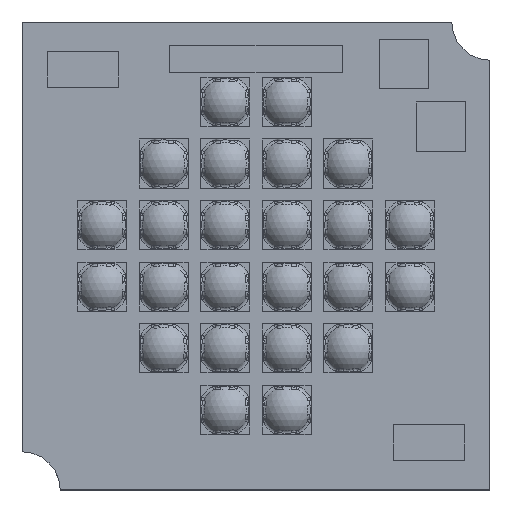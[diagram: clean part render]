
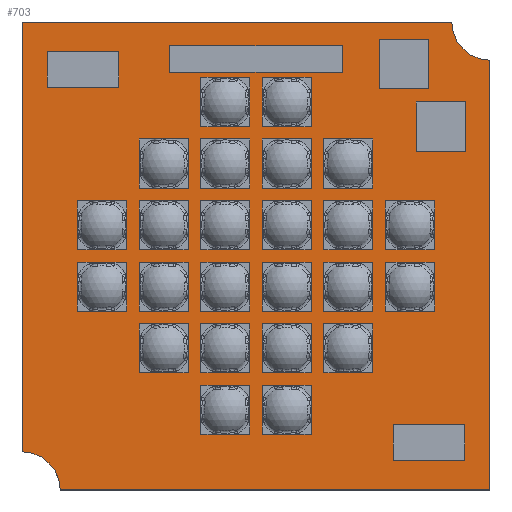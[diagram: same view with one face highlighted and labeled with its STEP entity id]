
A CAD part, top view. The second image highlights one B-rep face of the part: STEP entity #703.
In plain terms, the highlighted planar face has unit normal (0, 0, 1).
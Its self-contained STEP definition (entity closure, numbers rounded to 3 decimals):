
#240=DIRECTION('',(0.991,-0.131,0.));
#241=VECTOR('',#240,0.405);
#242=CARTESIAN_POINT('',(-9.5,-7.95,1.6));
#243=LINE('',#242,#241);
#247=DIRECTION('',(0.,-1.,0.));
#248=VECTOR('',#247,17.45);
#249=CARTESIAN_POINT('',(-9.5,9.5,1.6));
#250=LINE('',#249,#248);
#254=DIRECTION('',(-1.,0.,0.));
#255=VECTOR('',#254,17.45);
#256=CARTESIAN_POINT('',(7.95,9.5,1.6));
#257=LINE('',#256,#255);
#261=DIRECTION('',(-0.131,0.991,0.));
#262=VECTOR('',#261,0.405);
#263=CARTESIAN_POINT('',(8.003,9.099,1.6));
#264=LINE('',#263,#262);
#268=DIRECTION('',(-0.383,0.924,0.));
#269=VECTOR('',#268,0.405);
#270=CARTESIAN_POINT('',(8.158,8.725,1.6));
#271=LINE('',#270,#269);
#275=DIRECTION('',(-0.609,0.793,0.));
#276=VECTOR('',#275,0.405);
#277=CARTESIAN_POINT('',(8.404,8.404,1.6));
#278=LINE('',#277,#276);
#282=DIRECTION('',(-0.793,0.609,0.));
#283=VECTOR('',#282,0.405);
#284=CARTESIAN_POINT('',(8.725,8.158,1.6));
#285=LINE('',#284,#283);
#289=DIRECTION('',(-0.924,0.383,0.));
#290=VECTOR('',#289,0.405);
#291=CARTESIAN_POINT('',(9.099,8.003,1.6));
#292=LINE('',#291,#290);
#296=DIRECTION('',(-0.991,0.131,0.));
#297=VECTOR('',#296,0.405);
#298=CARTESIAN_POINT('',(9.5,7.95,1.6));
#299=LINE('',#298,#297);
#303=DIRECTION('',(0.,1.,0.));
#304=VECTOR('',#303,17.45);
#305=CARTESIAN_POINT('',(9.5,-9.5,1.6));
#306=LINE('',#305,#304);
#310=DIRECTION('',(1.,0.,0.));
#311=VECTOR('',#310,17.45);
#312=CARTESIAN_POINT('',(-7.95,-9.5,1.6));
#313=LINE('',#312,#311);
#317=DIRECTION('',(0.131,-0.991,0.));
#318=VECTOR('',#317,0.405);
#319=CARTESIAN_POINT('',(-8.003,-9.099,1.6));
#320=LINE('',#319,#318);
#324=DIRECTION('',(0.383,-0.924,0.));
#325=VECTOR('',#324,0.405);
#326=CARTESIAN_POINT('',(-8.158,-8.725,1.6));
#327=LINE('',#326,#325);
#331=DIRECTION('',(0.609,-0.793,0.));
#332=VECTOR('',#331,0.405);
#333=CARTESIAN_POINT('',(-8.404,-8.404,1.6));
#334=LINE('',#333,#332);
#338=DIRECTION('',(0.793,-0.609,0.));
#339=VECTOR('',#338,0.405);
#340=CARTESIAN_POINT('',(-8.725,-8.158,1.6));
#341=LINE('',#340,#339);
#345=DIRECTION('',(0.924,-0.383,0.));
#346=VECTOR('',#345,0.405);
#347=CARTESIAN_POINT('',(-9.099,-8.003,1.6));
#348=LINE('',#347,#346);
#384=CARTESIAN_POINT('',(-9.5,-7.95,1.6));
#385=CARTESIAN_POINT('',(-9.099,-8.003,1.6));
#386=VERTEX_POINT('',#384);
#387=VERTEX_POINT('',#385);
#388=CARTESIAN_POINT('',(-8.725,-8.158,1.6));
#389=VERTEX_POINT('',#388);
#390=CARTESIAN_POINT('',(-8.404,-8.404,1.6));
#391=VERTEX_POINT('',#390);
#392=CARTESIAN_POINT('',(-8.158,-8.725,1.6));
#393=VERTEX_POINT('',#392);
#394=CARTESIAN_POINT('',(-8.003,-9.099,1.6));
#395=VERTEX_POINT('',#394);
#396=CARTESIAN_POINT('',(-7.95,-9.5,1.6));
#397=VERTEX_POINT('',#396);
#398=CARTESIAN_POINT('',(9.5,-9.5,1.6));
#399=VERTEX_POINT('',#398);
#400=CARTESIAN_POINT('',(9.5,7.95,1.6));
#401=VERTEX_POINT('',#400);
#402=CARTESIAN_POINT('',(9.099,8.003,1.6));
#403=VERTEX_POINT('',#402);
#404=CARTESIAN_POINT('',(8.725,8.158,1.6));
#405=VERTEX_POINT('',#404);
#406=CARTESIAN_POINT('',(8.404,8.404,1.6));
#407=VERTEX_POINT('',#406);
#408=CARTESIAN_POINT('',(8.158,8.725,1.6));
#409=VERTEX_POINT('',#408);
#410=CARTESIAN_POINT('',(8.003,9.099,1.6));
#411=VERTEX_POINT('',#410);
#412=CARTESIAN_POINT('',(7.95,9.5,1.6));
#413=VERTEX_POINT('',#412);
#414=CARTESIAN_POINT('',(-9.5,9.5,1.6));
#415=VERTEX_POINT('',#414);
#680=CARTESIAN_POINT('',(0.,0.,1.6));
#681=DIRECTION('',(0.,0.,1.));
#682=DIRECTION('',(1.,0.,0.));
#683=AXIS2_PLACEMENT_3D('',#680,#681,#682);
#684=PLANE('',#683);
#685=ORIENTED_EDGE('',*,*,#464,.F.);
#686=ORIENTED_EDGE('',*,*,#479,.F.);
#687=ORIENTED_EDGE('',*,*,#493,.F.);
#688=ORIENTED_EDGE('',*,*,#507,.F.);
#689=ORIENTED_EDGE('',*,*,#521,.F.);
#690=ORIENTED_EDGE('',*,*,#535,.F.);
#691=ORIENTED_EDGE('',*,*,#549,.F.);
#692=ORIENTED_EDGE('',*,*,#563,.F.);
#693=ORIENTED_EDGE('',*,*,#577,.F.);
#694=ORIENTED_EDGE('',*,*,#591,.F.);
#695=ORIENTED_EDGE('',*,*,#605,.F.);
#696=ORIENTED_EDGE('',*,*,#619,.F.);
#697=ORIENTED_EDGE('',*,*,#633,.F.);
#698=ORIENTED_EDGE('',*,*,#647,.F.);
#699=ORIENTED_EDGE('',*,*,#661,.F.);
#700=ORIENTED_EDGE('',*,*,#674,.F.);
#701=EDGE_LOOP('',(#685,#686,#687,#688,#689,#690,#691,#692,#693,#694,#695,#696,
#697,#698,#699,#700));
#702=FACE_OUTER_BOUND('',#701,.F.);
#464=EDGE_CURVE('',#386,#387,#243,.T.);
#479=EDGE_CURVE('',#415,#386,#250,.T.);
#493=EDGE_CURVE('',#413,#415,#257,.T.);
#507=EDGE_CURVE('',#411,#413,#264,.T.);
#521=EDGE_CURVE('',#409,#411,#271,.T.);
#535=EDGE_CURVE('',#407,#409,#278,.T.);
#549=EDGE_CURVE('',#405,#407,#285,.T.);
#563=EDGE_CURVE('',#403,#405,#292,.T.);
#577=EDGE_CURVE('',#401,#403,#299,.T.);
#591=EDGE_CURVE('',#399,#401,#306,.T.);
#605=EDGE_CURVE('',#397,#399,#313,.T.);
#619=EDGE_CURVE('',#395,#397,#320,.T.);
#633=EDGE_CURVE('',#393,#395,#327,.T.);
#647=EDGE_CURVE('',#391,#393,#334,.T.);
#661=EDGE_CURVE('',#389,#391,#341,.T.);
#674=EDGE_CURVE('',#387,#389,#348,.T.);
#703=ADVANCED_FACE('',(#702),#684,.T.);
